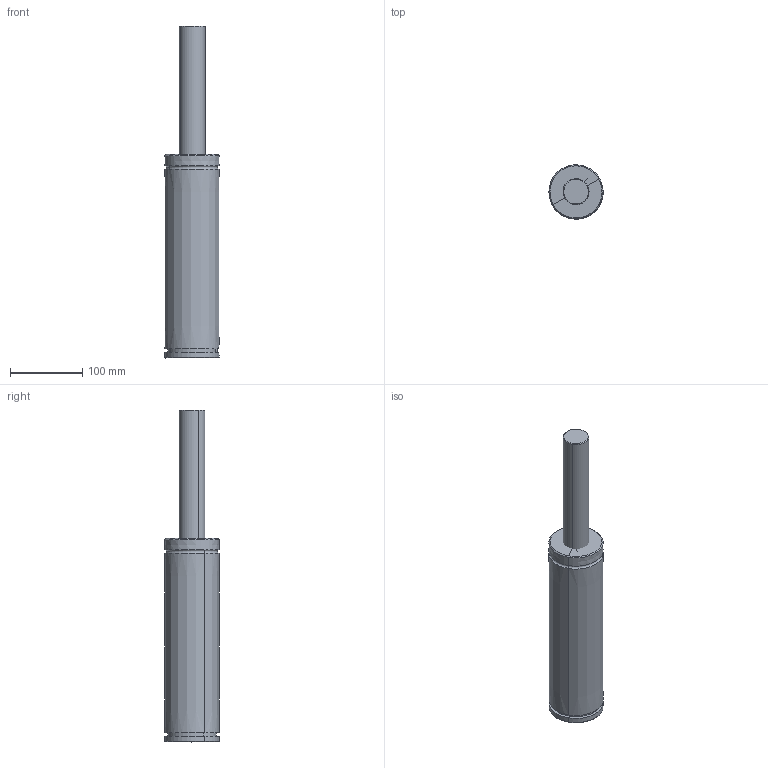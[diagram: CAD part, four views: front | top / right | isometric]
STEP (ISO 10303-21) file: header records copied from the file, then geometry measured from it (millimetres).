
FILE_DESCRIPTION(('CATIA V5 STEP Exchange'),'2;1');
FILE_NAME('W:\CATALOGO GENERAL 2018\FICHEROS CAD\004-TPS\TPS 1500.1\TPS 1500x175.1.stp','2017-11-20T11:30:16+00:00',('none'),('none'),'CATIA Version 5 Release 17 (IN-10)','CATIA V5 STEP AP203','none');
FILE_SCHEMA(('CONFIG_CONTROL_DESIGN'));
Length unit declared in the file: millimetre
Products named in the file (1): TPS 1500x175
Assembly tree (3 placements, depth 2):
  TPS 1500x175
    #56
    #838
    #1228
Bounding box: 75.12 x 75.11 x 460.02 mm (x, y, z)
Volume: 1661535.6 mm3; surface area: 128623.4 mm2
Topology: 3 solids, 3 shells, 117 faces, 252 edges, 142 vertices
Faces by surface type: cone 47, torus 36, plane 18, cylinder 16
Entity records: 2969 total; most frequent: CARTESIAN_POINT 598, ORIENTED_EDGE 496, DIRECTION 392, EDGE_CURVE 248, AXIS2_PLACEMENT_3D 235, CIRCLE 152, VERTEX_POINT 142, EDGE_LOOP 122
